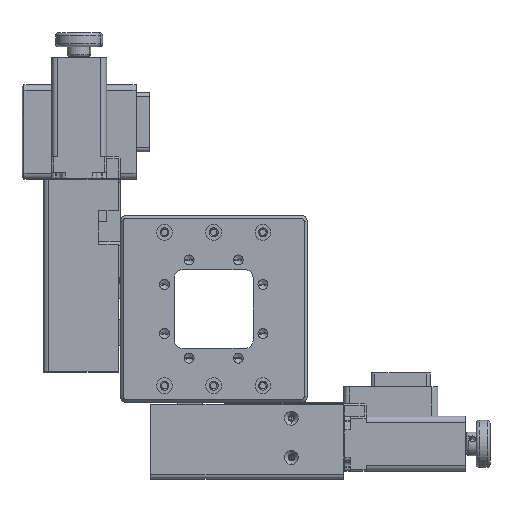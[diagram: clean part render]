
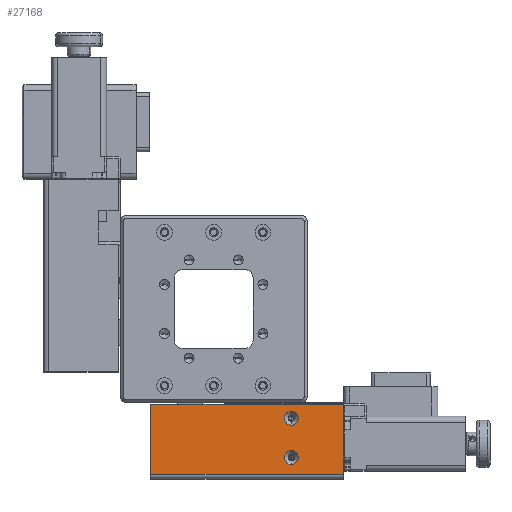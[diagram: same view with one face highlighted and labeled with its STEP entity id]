
A CAD part, top view. The second image highlights one B-rep face of the part: STEP entity #27168.
In plain terms, the highlighted planar face has unit normal (0, 0, 1).
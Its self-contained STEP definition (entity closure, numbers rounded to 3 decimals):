
#829 = VERTEX_POINT ( 'NONE', #26931 ) ;
#4164 = VECTOR ( 'NONE', #41501, 1000. ) ;
#6163 = ORIENTED_EDGE ( 'NONE', *, *, #66526, .T. ) ;
#6704 = CARTESIAN_POINT ( 'NONE',  ( 66., -84., 40.5 ) ) ;
#7156 = EDGE_CURVE ( 'NONE', #57666, #88267, #23754, .T. ) ;
#7332 = VERTEX_POINT ( 'NONE', #11271 ) ;
#8035 = CARTESIAN_POINT ( 'NONE',  ( 39.5, -75.5, 40.5 ) ) ;
#9477 = CIRCLE ( 'NONE', #74077, 3.55 ) ;
#10592 = EDGE_CURVE ( 'NONE', #33798, #45216, #71601, .T. ) ;
#11271 = CARTESIAN_POINT ( 'NONE',  ( 39.5, -59.05, 40.5 ) ) ;
#11439 = VECTOR ( 'NONE', #27485, 1000. ) ;
#13366 = DIRECTION ( 'NONE',  ( 0., -1., 0. ) ) ;
#13811 = FACE_BOUND ( 'NONE', #41474, .T. ) ;
#14281 = EDGE_CURVE ( 'NONE', #829, #88405, #50970, .T. ) ;
#15953 = ORIENTED_EDGE ( 'NONE', *, *, #45692, .T. ) ;
#15998 = DIRECTION ( 'NONE',  ( 0., 1., 0. ) ) ;
#17162 = EDGE_CURVE ( 'NONE', #829, #33798, #26717, .T. ) ;
#17508 = DIRECTION ( 'NONE',  ( 0., -1., 0. ) ) ;
#18778 = ORIENTED_EDGE ( 'NONE', *, *, #60935, .F. ) ;
#20352 = VERTEX_POINT ( 'NONE', #76833 ) ;
#21327 = PLANE ( 'NONE',  #66894 ) ;
#23754 = CIRCLE ( 'NONE', #76358, 3.55 ) ;
#26717 = LINE ( 'NONE', #42679, #41603 ) ;
#26797 = CIRCLE ( 'NONE', #44868, 3.55 ) ;
#26931 = CARTESIAN_POINT ( 'NONE',  ( -32., -48.5, 40.5 ) ) ;
#27168 = ADVANCED_FACE ( 'NONE', ( #72154, #13811, #42508 ), #21327, .F. ) ;
#27485 = DIRECTION ( 'NONE',  ( 1., 0., 0. ) ) ;
#30258 = AXIS2_PLACEMENT_3D ( 'NONE', #54270, #68864, #53807 ) ;
#33043 = LINE ( 'NONE', #61756, #80965 ) ;
#33798 = VERTEX_POINT ( 'NONE', #76988 ) ;
#41143 = CARTESIAN_POINT ( 'NONE',  ( 39.5, -71.95, 40.5 ) ) ;
#41474 = EDGE_LOOP ( 'NONE', ( #75049, #6163 ) ) ;
#41501 = DIRECTION ( 'NONE',  ( 1., 0., 0. ) ) ;
#41603 = VECTOR ( 'NONE', #71388, 1000. ) ;
#42508 = FACE_OUTER_BOUND ( 'NONE', #89674, .T. ) ;
#42679 = CARTESIAN_POINT ( 'NONE',  ( -32., -48.5, 40.5 ) ) ;
#44868 = AXIS2_PLACEMENT_3D ( 'NONE', #48066, #69728, #60825 ) ;
#45216 = VERTEX_POINT ( 'NONE', #6704 ) ;
#45692 = EDGE_CURVE ( 'NONE', #88267, #57666, #63312, .T. ) ;
#45916 = ORIENTED_EDGE ( 'NONE', *, *, #14281, .F. ) ;
#48066 = CARTESIAN_POINT ( 'NONE',  ( 39.5, -55.5, 40.5 ) ) ;
#49029 = CARTESIAN_POINT ( 'NONE',  ( -32., -84., 40.5 ) ) ;
#49110 = CARTESIAN_POINT ( 'NONE',  ( -32., -48.5, 40.5 ) ) ;
#50970 = LINE ( 'NONE', #79697, #11439 ) ;
#53374 = CARTESIAN_POINT ( 'NONE',  ( 39.5, -55.5, 40.5 ) ) ;
#53807 = DIRECTION ( 'NONE',  ( 0., 1., 0. ) ) ;
#54270 = CARTESIAN_POINT ( 'NONE',  ( 39.5, -75.5, 40.5 ) ) ;
#55750 = ORIENTED_EDGE ( 'NONE', *, *, #10592, .T. ) ;
#57666 = VERTEX_POINT ( 'NONE', #41143 ) ;
#59063 = DIRECTION ( 'NONE',  ( 0., 1., 0. ) ) ;
#60825 = DIRECTION ( 'NONE',  ( 0., 1., 0. ) ) ;
#60872 = EDGE_CURVE ( 'NONE', #7332, #20352, #26797, .T. ) ;
#60935 = EDGE_CURVE ( 'NONE', #88405, #45216, #33043, .T. ) ;
#61756 = CARTESIAN_POINT ( 'NONE',  ( 66., -48.5, 40.5 ) ) ;
#63312 = CIRCLE ( 'NONE', #30258, 3.55 ) ;
#65616 = ORIENTED_EDGE ( 'NONE', *, *, #7156, .T. ) ;
#66526 = EDGE_CURVE ( 'NONE', #20352, #7332, #9477, .T. ) ;
#66894 = AXIS2_PLACEMENT_3D ( 'NONE', #49110, #77824, #13366 ) ;
#68864 = DIRECTION ( 'NONE',  ( 0., 0., -1. ) ) ;
#69728 = DIRECTION ( 'NONE',  ( 0., 0., -1. ) ) ;
#71388 = DIRECTION ( 'NONE',  ( 0., -1., 0. ) ) ;
#71601 = LINE ( 'NONE', #49029, #4164 ) ;
#72154 = FACE_BOUND ( 'NONE', #82017, .T. ) ;
#74077 = AXIS2_PLACEMENT_3D ( 'NONE', #53374, #81635, #59063 ) ;
#75049 = ORIENTED_EDGE ( 'NONE', *, *, #60872, .T. ) ;
#76358 = AXIS2_PLACEMENT_3D ( 'NONE', #8035, #87542, #15998 ) ;
#76833 = CARTESIAN_POINT ( 'NONE',  ( 39.5, -51.95, 40.5 ) ) ;
#76988 = CARTESIAN_POINT ( 'NONE',  ( -32., -84., 40.5 ) ) ;
#77824 = DIRECTION ( 'NONE',  ( 0., 0., -1. ) ) ;
#78837 = CARTESIAN_POINT ( 'NONE',  ( 39.5, -79.05, 40.5 ) ) ;
#79697 = CARTESIAN_POINT ( 'NONE',  ( -32., -48.5, 40.5 ) ) ;
#80965 = VECTOR ( 'NONE', #17508, 1000. ) ;
#81634 = CARTESIAN_POINT ( 'NONE',  ( 66., -48.5, 40.5 ) ) ;
#81635 = DIRECTION ( 'NONE',  ( 0., 0., -1. ) ) ;
#82017 = EDGE_LOOP ( 'NONE', ( #15953, #65616 ) ) ;
#83100 = ORIENTED_EDGE ( 'NONE', *, *, #17162, .T. ) ;
#87542 = DIRECTION ( 'NONE',  ( 0., 0., -1. ) ) ;
#88267 = VERTEX_POINT ( 'NONE', #78837 ) ;
#88405 = VERTEX_POINT ( 'NONE', #81634 ) ;
#89674 = EDGE_LOOP ( 'NONE', ( #83100, #55750, #18778, #45916 ) ) ;
